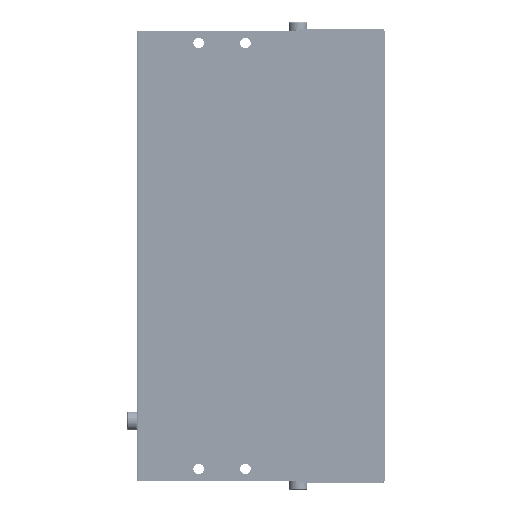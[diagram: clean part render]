
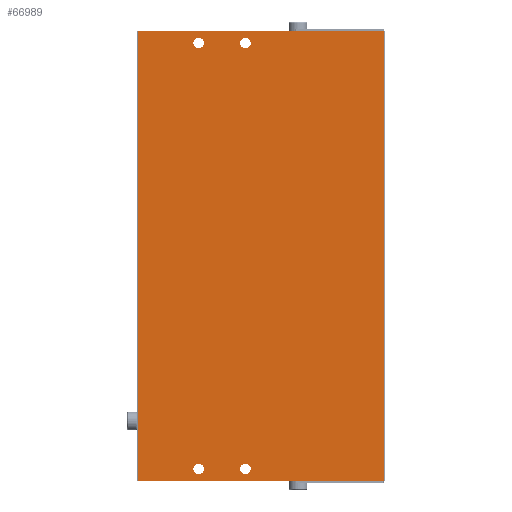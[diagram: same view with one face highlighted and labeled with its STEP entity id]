
A CAD part, front view. The second image highlights one B-rep face of the part: STEP entity #66989.
In plain terms, the highlighted planar face has unit normal (0, -1, 0).
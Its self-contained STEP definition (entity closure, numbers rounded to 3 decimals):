
#49279=DIRECTION('',(1.,0.,0.));
#49280=VECTOR('',#49279,105.);
#49281=CARTESIAN_POINT('',(-52.5,-16.9,192.));
#49282=LINE('',#49281,#49280);
#49407=DIRECTION('',(-1.,0.,0.));
#49408=VECTOR('',#49407,105.);
#49409=CARTESIAN_POINT('',(52.5,-16.9,0.));
#49410=LINE('',#49409,#49408);
#49916=DIRECTION('',(0.,0.,1.));
#49917=VECTOR('',#49916,192.);
#49918=CARTESIAN_POINT('',(-52.5,-16.9,0.));
#49919=LINE('',#49918,#49917);
#49920=CARTESIAN_POINT('',(-26.5,-16.9,187.));
#49921=DIRECTION('',(0.,1.,0.));
#49922=DIRECTION('',(0.,0.,1.));
#49923=AXIS2_PLACEMENT_3D('',#49920,#49921,#49922);
#49925=CARTESIAN_POINT('',(-26.5,-16.9,187.));
#49926=DIRECTION('',(0.,1.,0.));
#49927=DIRECTION('',(0.,0.,-1.));
#49928=AXIS2_PLACEMENT_3D('',#49925,#49926,#49927);
#49930=CARTESIAN_POINT('',(-6.5,-16.9,187.));
#49931=DIRECTION('',(0.,1.,0.));
#49932=DIRECTION('',(0.,0.,1.));
#49933=AXIS2_PLACEMENT_3D('',#49930,#49931,#49932);
#49935=CARTESIAN_POINT('',(-6.5,-16.9,187.));
#49936=DIRECTION('',(0.,1.,0.));
#49937=DIRECTION('',(0.,0.,-1.));
#49938=AXIS2_PLACEMENT_3D('',#49935,#49936,#49937);
#49940=CARTESIAN_POINT('',(-26.5,-16.9,5.));
#49941=DIRECTION('',(0.,1.,0.));
#49942=DIRECTION('',(0.,0.,-1.));
#49943=AXIS2_PLACEMENT_3D('',#49940,#49941,#49942);
#49945=CARTESIAN_POINT('',(-26.5,-16.9,5.));
#49946=DIRECTION('',(0.,1.,0.));
#49947=DIRECTION('',(0.,0.,1.));
#49948=AXIS2_PLACEMENT_3D('',#49945,#49946,#49947);
#49950=CARTESIAN_POINT('',(-6.5,-16.9,5.));
#49951=DIRECTION('',(0.,1.,0.));
#49952=DIRECTION('',(0.,0.,-1.));
#49953=AXIS2_PLACEMENT_3D('',#49950,#49951,#49952);
#49955=CARTESIAN_POINT('',(-6.5,-16.9,5.));
#49956=DIRECTION('',(0.,1.,0.));
#49957=DIRECTION('',(0.,0.,1.));
#49958=AXIS2_PLACEMENT_3D('',#49955,#49956,#49957);
#49964=DIRECTION('',(0.,0.,-1.));
#49965=VECTOR('',#49964,192.);
#49966=CARTESIAN_POINT('',(52.5,-16.9,192.));
#49967=LINE('',#49966,#49965);
#62386=CARTESIAN_POINT('',(52.5,-16.9,0.));
#62387=CARTESIAN_POINT('',(-52.5,-16.9,0.));
#62388=VERTEX_POINT('',#62386);
#62389=VERTEX_POINT('',#62387);
#62535=CARTESIAN_POINT('',(-26.5,-16.9,189.25));
#62536=CARTESIAN_POINT('',(-26.5,-16.9,184.75));
#62537=VERTEX_POINT('',#62535);
#62538=VERTEX_POINT('',#62536);
#62607=CARTESIAN_POINT('',(-6.5,-16.9,7.25));
#62609=VERTEX_POINT('',#62607);
#62818=CARTESIAN_POINT('',(-52.5,-16.9,192.));
#62819=CARTESIAN_POINT('',(52.5,-16.9,192.));
#62820=VERTEX_POINT('',#62818);
#62821=VERTEX_POINT('',#62819);
#62953=CARTESIAN_POINT('',(-6.5,-16.9,189.25));
#62954=CARTESIAN_POINT('',(-6.5,-16.9,184.75));
#62955=VERTEX_POINT('',#62953);
#62956=VERTEX_POINT('',#62954);
#63090=CARTESIAN_POINT('',(-26.5,-16.9,2.75));
#63091=CARTESIAN_POINT('',(-26.5,-16.9,7.25));
#63092=VERTEX_POINT('',#63090);
#63093=VERTEX_POINT('',#63091);
#63545=CARTESIAN_POINT('',(-6.5,-16.9,2.75));
#63546=VERTEX_POINT('',#63545);
#66953=CARTESIAN_POINT('',(-53.,-16.9,0.));
#66954=DIRECTION('',(0.,-1.,0.));
#66955=DIRECTION('',(0.,0.,-1.));
#66956=AXIS2_PLACEMENT_3D('',#66953,#66954,#66955);
#66957=PLANE('',#66956);
#66958=ORIENTED_EDGE('',*,*,#66947,.T.);
#66959=ORIENTED_EDGE('',*,*,#66466,.T.);
#66961=ORIENTED_EDGE('',*,*,#66960,.T.);
#66962=ORIENTED_EDGE('',*,*,#66590,.T.);
#66963=EDGE_LOOP('',(#66958,#66959,#66961,#66962));
#66964=FACE_OUTER_BOUND('',#66963,.F.);
#66966=ORIENTED_EDGE('',*,*,#66965,.F.);
#66968=ORIENTED_EDGE('',*,*,#66967,.F.);
#66969=EDGE_LOOP('',(#66966,#66968));
#66970=FACE_BOUND('',#66969,.F.);
#66972=ORIENTED_EDGE('',*,*,#66971,.F.);
#66974=ORIENTED_EDGE('',*,*,#66973,.F.);
#66975=EDGE_LOOP('',(#66972,#66974));
#66976=FACE_BOUND('',#66975,.F.);
#66978=ORIENTED_EDGE('',*,*,#66977,.F.);
#66980=ORIENTED_EDGE('',*,*,#66979,.F.);
#66981=EDGE_LOOP('',(#66978,#66980));
#66982=FACE_BOUND('',#66981,.F.);
#66984=ORIENTED_EDGE('',*,*,#66983,.F.);
#66986=ORIENTED_EDGE('',*,*,#66985,.F.);
#66987=EDGE_LOOP('',(#66984,#66986));
#66988=FACE_BOUND('',#66987,.F.);
#66989=ADVANCED_FACE('',(#66964,#66970,#66976,#66982,#66988),#66957,.T.);
#49924=CIRCLE('',#49923,2.25);
#49929=CIRCLE('',#49928,2.25);
#49934=CIRCLE('',#49933,2.25);
#49939=CIRCLE('',#49938,2.25);
#49944=CIRCLE('',#49943,2.25);
#49949=CIRCLE('',#49948,2.25);
#49954=CIRCLE('',#49953,2.25);
#49959=CIRCLE('',#49958,2.25);
#66466=EDGE_CURVE('',#62820,#62821,#49282,.T.);
#66590=EDGE_CURVE('',#62388,#62389,#49410,.T.);
#66947=EDGE_CURVE('',#62389,#62820,#49919,.T.);
#66960=EDGE_CURVE('',#62821,#62388,#49967,.T.);
#66965=EDGE_CURVE('',#62537,#62538,#49924,.T.);
#66967=EDGE_CURVE('',#62538,#62537,#49929,.T.);
#66971=EDGE_CURVE('',#62955,#62956,#49934,.T.);
#66973=EDGE_CURVE('',#62956,#62955,#49939,.T.);
#66977=EDGE_CURVE('',#63092,#63093,#49944,.T.);
#66979=EDGE_CURVE('',#63093,#63092,#49949,.T.);
#66983=EDGE_CURVE('',#63546,#62609,#49954,.T.);
#66985=EDGE_CURVE('',#62609,#63546,#49959,.T.);
